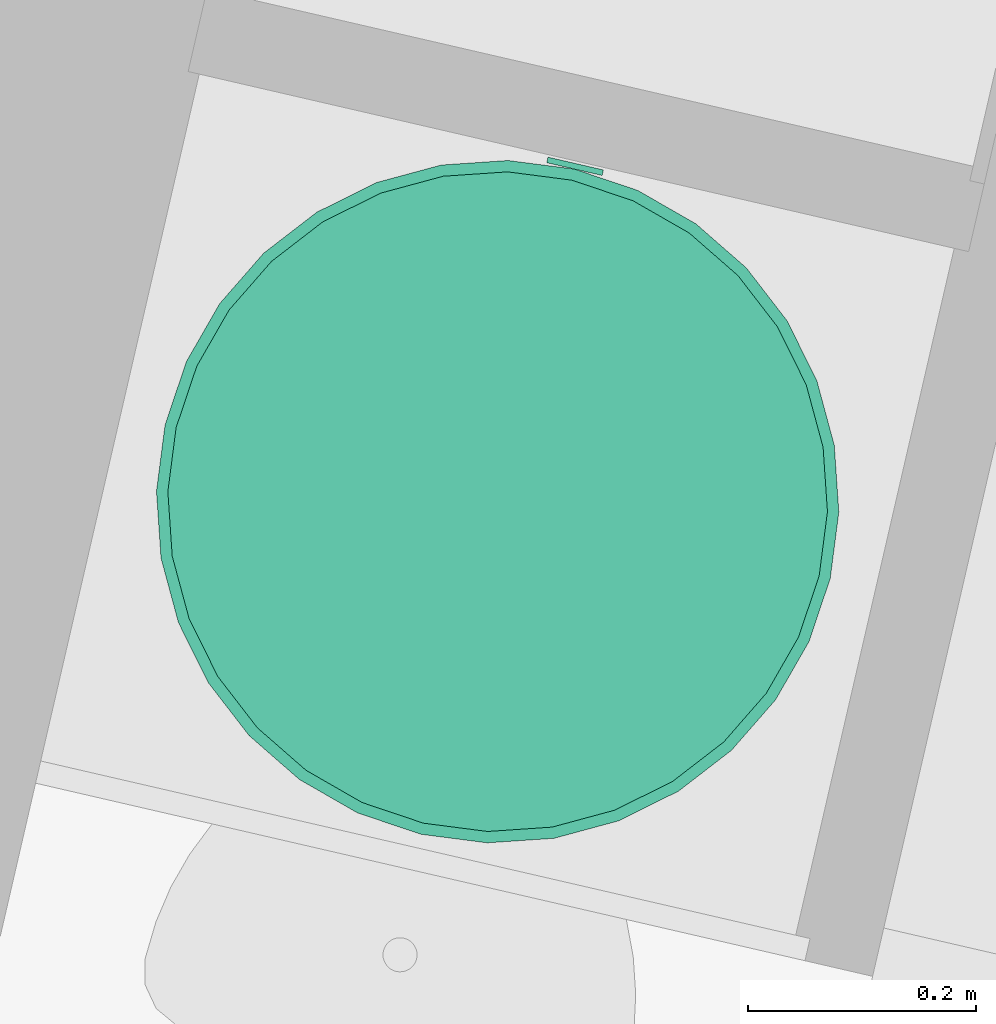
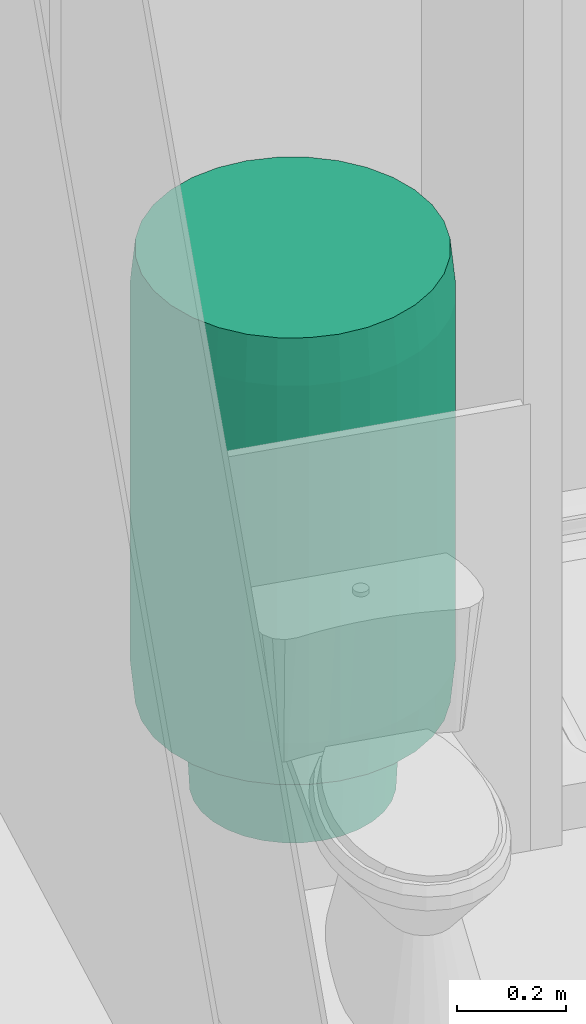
# One storey, part 73 of 91: 1 energy conversion device.
"""IFC2X3 building model written with IfcOpenShell, lengths in metres."""

from ifc_helpers import new_model, entity, si_unit, converted_unit, derived_unit, money_unit, direction, frame, origin_with_axes, place, context, subcontext, project, spatial, open_shell, faceted_brep, surface_model, source, transform, mapped, type_object, element, save


model = new_model("IFC2X3")

# Units and contexts
model_context = context("Model", 3, precision=1e-05, world=origin_with_axes(), true_north=direction((0.0, 1.0)))
body_context = subcontext(model_context, "Body", "Model", "MODEL_VIEW")
ifc_project = project(units=[si_unit("LENGTHUNIT", "METRE"), si_unit("AREAUNIT", "SQUARE_METRE"), si_unit("VOLUMEUNIT", "CUBIC_METRE"), converted_unit("PLANEANGLEUNIT", "DEGREE", entity("IfcPlaneAngleMeasure", 0.0174532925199), si_unit("PLANEANGLEUNIT", "RADIAN"), dimensions=[0, 0, 0, 0, 0, 0, 0]), si_unit("SOLIDANGLEUNIT", "STERADIAN"), money_unit("EUR"), converted_unit("TIMEUNIT", "Year", entity("IfcTimeMeasure", 31556926.0), si_unit("TIMEUNIT", "SECOND"), dimensions=[0, 0, 1, 0, 0, 0, 0]), si_unit("MASSUNIT", "GRAM", prefix="KILO"), si_unit("THERMODYNAMICTEMPERATUREUNIT", "DEGREE_CELSIUS"), si_unit("LUMINOUSINTENSITYUNIT", "LUMEN"), si_unit("ENERGYUNIT", "JOULE", prefix="MEGA"), derived_unit("THERMALCONDUCTANCEUNIT", [(si_unit("POWERUNIT", "WATT"), 1), (si_unit("LENGTHUNIT", "METRE"), -1), (si_unit("THERMODYNAMICTEMPERATUREUNIT", "KELVIN"), -1)]), derived_unit("SPECIFICHEATCAPACITYUNIT", [(si_unit("ENERGYUNIT", "JOULE"), 1), (si_unit("MASSUNIT", "GRAM", prefix="KILO"), -1), (si_unit("THERMODYNAMICTEMPERATUREUNIT", "KELVIN"), -1)]), derived_unit("MASSDENSITYUNIT", [(si_unit("MASSUNIT", "GRAM", prefix="KILO"), 1), (si_unit("VOLUMEUNIT", "CUBIC_METRE"), -1)])], contexts=[model_context])

# Site, building, storey
site_placement = place(None, origin_with_axes())
site = spatial("IfcSite", under=ifc_project, at=site_placement, Name="Site", CompositionType="ELEMENT")
building_placement = place(site_placement, origin_with_axes())
building = spatial("IfcBuilding", under=site, at=building_placement, Name="Bâtiment", CompositionType="ELEMENT")
storey_placement = place(building_placement, frame((0.0, 0.0, 5.44), z_axis=(0.0, 0.0, 1.0), x_axis=(1.0, 0.0, 0.0)))
storey = spatial("IfcBuildingStorey", under=building, at=storey_placement, Name="R+2", CompositionType="ELEMENT", Elevation=5.44)

# Energy conversion device
heat_exchanger_type = type_object("IfcHeatExchangerType", Name="Chauffe-eau électrique 23", PredefinedType="SHELLANDTUBE")
shared_shape = source(origin_with_axes(), body_context, "Body", "SurfaceModel", [
    surface_model("IfcShellBasedSurfaceModel", [(-0.245, -0.0135, 0.2), (-0.245, -0.0135, 0.18), (-0.241505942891, -0.0130399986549, 0.18), (-0.241505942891, -0.0130399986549, 0.2), (-0.248494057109, -0.0130399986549, 0.2), (-0.248494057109, -0.0130399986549, 0.18), (-0.23825, -0.0116913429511, 0.18), (-0.23825, -0.0116913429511, 0.2), (-0.25175, -0.0116913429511, 0.2), (-0.25175, -0.0116913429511, 0.18), (-0.235454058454, -0.00954594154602, 0.18), (-0.235454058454, -0.00954594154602, 0.2), (-0.254545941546, -0.00954594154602, 0.2), (-0.254545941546, -0.00954594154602, 0.18), (-0.233308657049, -0.00675, 0.18), (-0.233308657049, -0.00675, 0.2), (-0.256691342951, -0.00675, 0.2), (-0.256691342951, -0.00675, 0.18), (-0.231960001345, -0.00349405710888, 0.18), (-0.231960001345, -0.00349405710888, 0.2), (-0.258039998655, -0.00349405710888, 0.2), (-0.258039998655, -0.00349405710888, 0.18), (-0.2315, 0.0, 0.18), (-0.2315, 0.0, 0.2), (-0.2585, 0.0, 0.2), (-0.2585, 0.0, 0.18), (-0.231960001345, 0.00349405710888, 0.18), (-0.231960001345, 0.00349405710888, 0.2), (-0.258039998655, 0.00349405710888, 0.2), (-0.258039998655, 0.00349405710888, 0.18), (-0.233308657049, 0.00675, 0.18), (-0.233308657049, 0.00675, 0.2), (-0.256691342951, 0.00675, 0.2), (-0.256691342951, 0.00675, 0.18), (-0.235454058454, 0.00954594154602, 0.18), (-0.235454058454, 0.00954594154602, 0.2), (-0.254545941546, 0.00954594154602, 0.2), (-0.254545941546, 0.00954594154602, 0.18), (-0.23825, 0.0116913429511, 0.18), (-0.23825, 0.0116913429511, 0.2), (-0.25175, 0.0116913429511, 0.2), (-0.25175, 0.0116913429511, 0.18), (-0.241505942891, 0.0130399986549, 0.18), (-0.241505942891, 0.0130399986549, 0.2), (-0.248494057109, 0.0130399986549, 0.2), (-0.248494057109, 0.0130399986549, 0.18), (-0.245, 0.0135, 0.18), (-0.245, 0.0135, 0.2)], [open_shell([[[0, 1, 2, 3]], [[4, 5, 1, 0]], [[3, 2, 6, 7]], [[8, 9, 5, 4]], [[7, 6, 10, 11]], [[12, 13, 9, 8]], [[11, 10, 14, 15]], [[16, 17, 13, 12]], [[15, 14, 18, 19]], [[20, 21, 17, 16]], [[19, 18, 22, 23]], [[24, 25, 21, 20]], [[23, 22, 26, 27]], [[28, 29, 25, 24]], [[27, 26, 30, 31]], [[32, 33, 29, 28]], [[31, 30, 34, 35]], [[36, 37, 33, 32]], [[35, 34, 38, 39]], [[40, 41, 37, 36]], [[39, 38, 42, 43]], [[44, 45, 41, 40]], [[43, 42, 46, 47]], [[47, 46, 45, 44]]])]),
    surface_model("IfcShellBasedSurfaceModel", [(0.245, -0.0135, 0.2), (0.245, -0.0135, 0.18), (0.248494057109, -0.0130399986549, 0.18), (0.248494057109, -0.0130399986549, 0.2), (0.241505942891, -0.0130399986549, 0.2), (0.241505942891, -0.0130399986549, 0.18), (0.25175, -0.0116913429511, 0.18), (0.25175, -0.0116913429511, 0.2), (0.23825, -0.0116913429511, 0.2), (0.23825, -0.0116913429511, 0.18), (0.254545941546, -0.00954594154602, 0.18), (0.254545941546, -0.00954594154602, 0.2), (0.235454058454, -0.00954594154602, 0.2), (0.235454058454, -0.00954594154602, 0.18), (0.256691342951, -0.00675, 0.18), (0.256691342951, -0.00675, 0.2), (0.233308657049, -0.00675, 0.2), (0.233308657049, -0.00675, 0.18), (0.258039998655, -0.00349405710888, 0.18), (0.258039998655, -0.00349405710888, 0.2), (0.231960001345, -0.00349405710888, 0.2), (0.231960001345, -0.00349405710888, 0.18), (0.2585, 0.0, 0.18), (0.2585, 0.0, 0.2), (0.2315, 0.0, 0.2), (0.2315, 0.0, 0.18), (0.258039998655, 0.00349405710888, 0.18), (0.258039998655, 0.00349405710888, 0.2), (0.231960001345, 0.00349405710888, 0.2), (0.231960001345, 0.00349405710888, 0.18), (0.256691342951, 0.00675, 0.18), (0.256691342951, 0.00675, 0.2), (0.233308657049, 0.00675, 0.2), (0.233308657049, 0.00675, 0.18), (0.254545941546, 0.00954594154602, 0.18), (0.254545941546, 0.00954594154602, 0.2), (0.235454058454, 0.00954594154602, 0.2), (0.235454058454, 0.00954594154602, 0.18), (0.25175, 0.0116913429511, 0.18), (0.25175, 0.0116913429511, 0.2), (0.23825, 0.0116913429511, 0.2), (0.23825, 0.0116913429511, 0.18), (0.248494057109, 0.0130399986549, 0.18), (0.248494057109, 0.0130399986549, 0.2), (0.241505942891, 0.0130399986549, 0.2), (0.241505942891, 0.0130399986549, 0.18), (0.245, 0.0135, 0.18), (0.245, 0.0135, 0.2)], [open_shell([[[0, 1, 2, 3]], [[4, 5, 1, 0]], [[3, 2, 6, 7]], [[8, 9, 5, 4]], [[7, 6, 10, 11]], [[12, 13, 9, 8]], [[11, 10, 14, 15]], [[16, 17, 13, 12]], [[15, 14, 18, 19]], [[20, 21, 17, 16]], [[19, 18, 22, 23]], [[24, 25, 21, 20]], [[23, 22, 26, 27]], [[28, 29, 25, 24]], [[27, 26, 30, 31]], [[32, 33, 29, 28]], [[31, 30, 34, 35]], [[36, 37, 33, 32]], [[35, 34, 38, 39]], [[40, 41, 37, 36]], [[39, 38, 42, 43]], [[44, 45, 41, 40]], [[43, 42, 46, 47]], [[47, 46, 45, 44]]])]),
    faceted_brep([(-0.025, -0.305, 0.4), (-0.025, -0.3, 0.4), (0.025, -0.3, 0.4), (0.025, -0.305, 0.4), (-0.025, -0.305, 0.42), (-0.025, -0.3, 0.42), (0.025, -0.3, 0.42), (0.025, -0.305, 0.42)], [[[0, 1, 2, 3]], [[0, 4, 5, 1]], [[1, 5, 6, 2]], [[2, 6, 7, 3]], [[3, 7, 4, 0]], [[7, 6, 5, 4]]]),
    faceted_brep([(0.0222836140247, -0.16, 0.088519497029), (0.02, -0.16, 0.1), (0.0222836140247, -0.16, 0.111480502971), (0.0287867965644, -0.16, 0.121213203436), (0.038519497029, -0.16, 0.127716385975), (0.05, -0.16, 0.13), (0.061480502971, -0.16, 0.127716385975), (0.0712132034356, -0.16, 0.121213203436), (0.0777163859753, -0.16, 0.111480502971), (0.08, -0.16, 0.1), (0.0777163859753, -0.16, 0.088519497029), (0.0712132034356, -0.16, 0.0787867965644), (0.061480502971, -0.16, 0.0722836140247), (0.05, -0.16, 0.07), (0.038519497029, -0.16, 0.0722836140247), (0.0287867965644, -0.16, 0.0787867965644), (0.0222836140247, -0.175, 0.088519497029), (0.02, -0.175, 0.1), (0.0222836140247, -0.175, 0.111480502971), (0.0287867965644, -0.175, 0.121213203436), (0.038519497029, -0.175, 0.127716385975), (0.05, -0.175, 0.13), (0.061480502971, -0.175, 0.127716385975), (0.0712132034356, -0.175, 0.121213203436), (0.0777163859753, -0.175, 0.111480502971), (0.08, -0.175, 0.1), (0.0777163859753, -0.175, 0.088519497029), (0.0712132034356, -0.175, 0.0787867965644), (0.061480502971, -0.175, 0.0722836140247), (0.05, -0.175, 0.07), (0.038519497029, -0.175, 0.0722836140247), (0.0287867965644, -0.175, 0.0787867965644)], [[[0, 1, 2, 3, 4, 5, 6, 7, 8, 9, 10, 11, 12, 13, 14, 15]], [[0, 16, 17, 1]], [[1, 17, 18, 2]], [[2, 18, 19, 3]], [[3, 19, 20, 4]], [[4, 20, 21, 5]], [[5, 21, 22, 6]], [[6, 22, 23, 7]], [[7, 23, 24, 8]], [[8, 24, 25, 9]], [[9, 25, 26, 10]], [[10, 26, 27, 11]], [[11, 27, 28, 12]], [[12, 28, 29, 13]], [[13, 29, 30, 14]], [[14, 30, 31, 15]], [[15, 31, 16, 0]], [[16, 31, 30, 29, 28, 27, 26, 25, 24, 23, 22, 21, 20, 19, 18, 17]]]),
    faceted_brep([(-0.0777163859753, -0.16, 0.088519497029), (-0.08, -0.16, 0.1), (-0.0777163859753, -0.16, 0.111480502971), (-0.0712132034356, -0.16, 0.121213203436), (-0.061480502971, -0.16, 0.127716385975), (-0.05, -0.16, 0.13), (-0.038519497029, -0.16, 0.127716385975), (-0.0287867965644, -0.16, 0.121213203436), (-0.0222836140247, -0.16, 0.111480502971), (-0.02, -0.16, 0.1), (-0.0222836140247, -0.16, 0.088519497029), (-0.0287867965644, -0.16, 0.0787867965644), (-0.038519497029, -0.16, 0.0722836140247), (-0.05, -0.16, 0.07), (-0.061480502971, -0.16, 0.0722836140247), (-0.0712132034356, -0.16, 0.0787867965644), (-0.0777163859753, -0.175, 0.088519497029), (-0.08, -0.175, 0.1), (-0.0777163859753, -0.175, 0.111480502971), (-0.0712132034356, -0.175, 0.121213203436), (-0.061480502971, -0.175, 0.127716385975), (-0.05, -0.175, 0.13), (-0.038519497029, -0.175, 0.127716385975), (-0.0287867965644, -0.175, 0.121213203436), (-0.0222836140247, -0.175, 0.111480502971), (-0.02, -0.175, 0.1), (-0.0222836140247, -0.175, 0.088519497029), (-0.0287867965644, -0.175, 0.0787867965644), (-0.038519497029, -0.175, 0.0722836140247), (-0.05, -0.175, 0.07), (-0.061480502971, -0.175, 0.0722836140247), (-0.0712132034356, -0.175, 0.0787867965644)], [[[0, 1, 2, 3, 4, 5, 6, 7, 8, 9, 10, 11, 12, 13, 14, 15]], [[0, 16, 17, 1]], [[1, 17, 18, 2]], [[2, 18, 19, 3]], [[3, 19, 20, 4]], [[4, 20, 21, 5]], [[5, 21, 22, 6]], [[6, 22, 23, 7]], [[7, 23, 24, 8]], [[8, 24, 25, 9]], [[9, 25, 26, 10]], [[10, 26, 27, 11]], [[11, 27, 28, 12]], [[12, 28, 29, 13]], [[13, 29, 30, 14]], [[14, 30, 31, 15]], [[15, 31, 16, 0]], [[16, 31, 30, 29, 28, 27, 26, 25, 24, 23, 22, 21, 20, 19, 18, 17]]]),
    faceted_brep([(-0.186349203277, -0.0370671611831, 0.0), (-0.196157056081, -0.0390180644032, 0.2), (-0.2, 0.0, 0.2), (-0.19, 0.0, 0.0), (-0.175537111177, -0.0727098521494, 0.0), (-0.184775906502, -0.076536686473, 0.2), (-0.166293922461, -0.111114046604, 0.2), (-0.141421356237, -0.141421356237, 0.2), (-0.118783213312, -0.16, 0.2), (0.118783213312, -0.16, 0.2), (0.141421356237, -0.141421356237, 0.2), (0.166293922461, -0.111114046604, 0.2), (0.184775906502, -0.076536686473, 0.2), (0.196157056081, -0.0390180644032, 0.2), (0.2, 0.0, 0.2), (0.196157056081, 0.0390180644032, 0.2), (0.184775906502, 0.076536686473, 0.2), (0.166293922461, 0.111114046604, 0.2), (0.141421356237, 0.141421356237, 0.2), (0.111114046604, 0.166293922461, 0.2), (0.076536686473, 0.184775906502, 0.2), (0.0390180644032, 0.196157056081, 0.2), (0.0, 0.2, 0.2), (-0.0390180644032, 0.196157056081, 0.2), (-0.076536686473, 0.184775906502, 0.2), (-0.111114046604, 0.166293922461, 0.2), (-0.141421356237, 0.141421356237, 0.2), (-0.166293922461, 0.111114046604, 0.2), (-0.184775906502, 0.076536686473, 0.2), (-0.196157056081, 0.0390180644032, 0.2), (-0.186349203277, 0.0370671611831, 0.0), (-0.175537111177, 0.0727098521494, 0.0), (-0.157979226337, 0.105558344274, 0.0), (-0.134350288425, 0.134350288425, 0.0), (-0.105558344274, 0.157979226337, 0.0), (-0.0727098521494, 0.175537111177, 0.0), (-0.0370671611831, 0.186349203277, 0.0), (0.0, 0.19, 0.0), (0.0370671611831, 0.186349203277, 0.0), (0.0727098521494, 0.175537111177, 0.0), (0.105558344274, 0.157979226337, 0.0), (0.134350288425, 0.134350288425, 0.0), (0.157979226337, 0.105558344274, 0.0), (0.175537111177, 0.0727098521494, 0.0), (0.186349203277, 0.0370671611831, 0.0), (0.19, 0.0, 0.0), (0.186349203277, -0.0370671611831, 0.0), (0.175537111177, -0.0727098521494, 0.0), (0.157979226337, -0.105558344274, 0.0), (0.134350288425, -0.134350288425, 0.0), (0.105558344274, -0.157979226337, 0.0), (0.101777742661, -0.16, 0.0), (-0.101777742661, -0.16, 0.0), (-0.105558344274, -0.157979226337, 0.0), (-0.134350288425, -0.134350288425, 0.0), (-0.157979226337, -0.105558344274, 0.0), (-0.106908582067, -0.16, 0.0486072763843), (0.106908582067, -0.16, 0.0486072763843)], [[[0, 1, 2, 3]], [[4, 5, 1, 0]], [[1, 5, 6, 7, 8, 9, 10, 11, 12, 13, 14, 15, 16, 17, 18, 19, 20, 21, 22, 23, 24, 25, 26, 27, 28, 29, 2]], [[3, 2, 29, 30]], [[0, 3, 30, 31, 32, 33, 34, 35, 36, 37, 38, 39, 40, 41, 42, 43, 44, 45, 46, 47, 48, 49, 50, 51, 52, 53, 54, 55, 4]], [[55, 6, 5, 4]], [[54, 7, 6, 55]], [[53, 56, 8, 7, 54]], [[51, 57, 9, 8, 56, 52]], [[49, 10, 9, 57, 50]], [[48, 11, 10, 49]], [[47, 12, 11, 48]], [[46, 13, 12, 47]], [[45, 14, 13, 46]], [[44, 15, 14, 45]], [[43, 16, 15, 44]], [[42, 17, 16, 43]], [[41, 18, 17, 42]], [[40, 19, 18, 41]], [[39, 20, 19, 40]], [[38, 21, 20, 39]], [[37, 22, 21, 38]], [[36, 23, 22, 37]], [[35, 24, 23, 36]], [[34, 25, 24, 35]], [[33, 26, 25, 34]], [[32, 27, 26, 33]], [[31, 28, 27, 32]], [[30, 29, 28, 31]], [[50, 57, 51]], [[52, 56, 53]]]),
    faceted_brep([(-0.284427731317, -0.0565761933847, 0.2), (-0.294235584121, -0.0585270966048, 0.3), (-0.3, 0.0, 0.3), (-0.29, 0.0, 0.2), (-0.267925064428, -0.110978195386, 0.2), (-0.277163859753, -0.11480502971, 0.3), (-0.249440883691, -0.166671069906, 0.3), (-0.212132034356, -0.212132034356, 0.3), (-0.166671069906, -0.249440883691, 0.3), (-0.11480502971, -0.277163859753, 0.3), (-0.0585270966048, -0.294235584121, 0.3), (0.0, -0.3, 0.3), (0.0585270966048, -0.294235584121, 0.3), (0.11480502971, -0.277163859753, 0.3), (0.166671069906, -0.249440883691, 0.3), (0.212132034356, -0.212132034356, 0.3), (0.249440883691, -0.166671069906, 0.3), (0.277163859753, -0.11480502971, 0.3), (0.294235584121, -0.0585270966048, 0.3), (0.3, 0.0, 0.3), (0.294235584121, 0.0585270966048, 0.3), (0.277163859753, 0.11480502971, 0.3), (0.249440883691, 0.166671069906, 0.3), (0.212132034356, 0.212132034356, 0.3), (0.166671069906, 0.249440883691, 0.3), (0.11480502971, 0.277163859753, 0.3), (0.0585270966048, 0.294235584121, 0.3), (0.0, 0.3, 0.3), (-0.0585270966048, 0.294235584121, 0.3), (-0.11480502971, 0.277163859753, 0.3), (-0.166671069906, 0.249440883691, 0.3), (-0.212132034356, 0.212132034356, 0.3), (-0.249440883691, 0.166671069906, 0.3), (-0.277163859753, 0.11480502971, 0.3), (-0.294235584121, 0.0585270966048, 0.3), (-0.284427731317, 0.0565761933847, 0.2), (-0.267925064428, 0.110978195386, 0.2), (-0.241126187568, 0.161115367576, 0.2), (-0.205060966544, 0.205060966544, 0.2), (-0.161115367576, 0.241126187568, 0.2), (-0.110978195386, 0.267925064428, 0.2), (-0.0565761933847, 0.284427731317, 0.2), (0.0, 0.29, 0.2), (0.0565761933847, 0.284427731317, 0.2), (0.110978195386, 0.267925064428, 0.2), (0.161115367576, 0.241126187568, 0.2), (0.205060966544, 0.205060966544, 0.2), (0.241126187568, 0.161115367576, 0.2), (0.267925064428, 0.110978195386, 0.2), (0.284427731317, 0.0565761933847, 0.2), (0.29, 0.0, 0.2), (0.284427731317, -0.0565761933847, 0.2), (0.267925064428, -0.110978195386, 0.2), (0.241126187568, -0.161115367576, 0.2), (0.205060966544, -0.205060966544, 0.2), (0.161115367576, -0.241126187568, 0.2), (0.110978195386, -0.267925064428, 0.2), (0.0565761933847, -0.284427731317, 0.2), (0.0, -0.29, 0.2), (-0.0565761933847, -0.284427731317, 0.2), (-0.110978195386, -0.267925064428, 0.2), (-0.161115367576, -0.241126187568, 0.2), (-0.205060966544, -0.205060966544, 0.2), (-0.241126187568, -0.161115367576, 0.2)], [[[0, 1, 2, 3]], [[4, 5, 1, 0]], [[1, 5, 6, 7, 8, 9, 10, 11, 12, 13, 14, 15, 16, 17, 18, 19, 20, 21, 22, 23, 24, 25, 26, 27, 28, 29, 30, 31, 32, 33, 34, 2]], [[3, 2, 34, 35]], [[0, 3, 35, 36, 37, 38, 39, 40, 41, 42, 43, 44, 45, 46, 47, 48, 49, 50, 51, 52, 53, 54, 55, 56, 57, 58, 59, 60, 61, 62, 63, 4]], [[63, 6, 5, 4]], [[62, 7, 6, 63]], [[61, 8, 7, 62]], [[60, 9, 8, 61]], [[59, 10, 9, 60]], [[58, 11, 10, 59]], [[57, 12, 11, 58]], [[56, 13, 12, 57]], [[55, 14, 13, 56]], [[54, 15, 14, 55]], [[53, 16, 15, 54]], [[52, 17, 16, 53]], [[51, 18, 17, 52]], [[50, 19, 18, 51]], [[49, 20, 19, 50]], [[48, 21, 20, 49]], [[47, 22, 21, 48]], [[46, 23, 22, 47]], [[45, 24, 23, 46]], [[44, 25, 24, 45]], [[43, 26, 25, 44]], [[42, 27, 26, 43]], [[41, 28, 27, 42]], [[40, 29, 28, 41]], [[39, 30, 29, 40]], [[38, 31, 30, 39]], [[37, 32, 31, 38]], [[36, 33, 32, 37]], [[35, 34, 33, 36]]]),
    faceted_brep([(-0.294235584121, -0.0585270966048, 0.3), (-0.3, 0.0, 0.3), (-0.294235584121, 0.0585270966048, 0.3), (-0.277163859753, 0.11480502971, 0.3), (-0.249440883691, 0.166671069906, 0.3), (-0.212132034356, 0.212132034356, 0.3), (-0.166671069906, 0.249440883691, 0.3), (-0.11480502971, 0.277163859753, 0.3), (-0.0585270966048, 0.294235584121, 0.3), (0.0, 0.3, 0.3), (0.0585270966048, 0.294235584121, 0.3), (0.11480502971, 0.277163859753, 0.3), (0.166671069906, 0.249440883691, 0.3), (0.212132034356, 0.212132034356, 0.3), (0.249440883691, 0.166671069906, 0.3), (0.277163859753, 0.11480502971, 0.3), (0.294235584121, 0.0585270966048, 0.3), (0.3, 0.0, 0.3), (0.294235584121, -0.0585270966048, 0.3), (0.277163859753, -0.11480502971, 0.3), (0.249440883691, -0.166671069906, 0.3), (0.212132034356, -0.212132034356, 0.3), (0.166671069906, -0.249440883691, 0.3), (0.11480502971, -0.277163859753, 0.3), (0.0585270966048, -0.294235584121, 0.3), (0.0, -0.3, 0.3), (-0.0585270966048, -0.294235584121, 0.3), (-0.11480502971, -0.277163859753, 0.3), (-0.166671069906, -0.249440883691, 0.3), (-0.212132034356, -0.212132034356, 0.3), (-0.249440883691, -0.166671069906, 0.3), (-0.277163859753, -0.11480502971, 0.3), (-0.294235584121, -0.0585270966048, 1.1), (-0.3, 0.0, 1.1), (-0.294235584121, 0.0585270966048, 1.1), (-0.277163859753, 0.11480502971, 1.1), (-0.249440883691, 0.166671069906, 1.1), (-0.212132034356, 0.212132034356, 1.1), (-0.166671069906, 0.249440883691, 1.1), (-0.11480502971, 0.277163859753, 1.1), (-0.0585270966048, 0.294235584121, 1.1), (0.0, 0.3, 1.1), (0.0585270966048, 0.294235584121, 1.1), (0.11480502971, 0.277163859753, 1.1), (0.166671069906, 0.249440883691, 1.1), (0.212132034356, 0.212132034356, 1.1), (0.249440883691, 0.166671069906, 1.1), (0.277163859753, 0.11480502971, 1.1), (0.294235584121, 0.0585270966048, 1.1), (0.3, 0.0, 1.1), (0.294235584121, -0.0585270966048, 1.1), (0.277163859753, -0.11480502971, 1.1), (0.249440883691, -0.166671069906, 1.1), (0.212132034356, -0.212132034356, 1.1), (0.166671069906, -0.249440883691, 1.1), (0.11480502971, -0.277163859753, 1.1), (0.0585270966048, -0.294235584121, 1.1), (0.0, -0.3, 1.1), (-0.0585270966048, -0.294235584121, 1.1), (-0.11480502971, -0.277163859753, 1.1), (-0.166671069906, -0.249440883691, 1.1), (-0.212132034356, -0.212132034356, 1.1), (-0.249440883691, -0.166671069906, 1.1), (-0.277163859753, -0.11480502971, 1.1)], [[[0, 1, 2, 3, 4, 5, 6, 7, 8, 9, 10, 11, 12, 13, 14, 15, 16, 17, 18, 19, 20, 21, 22, 23, 24, 25, 26, 27, 28, 29, 30, 31]], [[0, 32, 33, 1]], [[1, 33, 34, 2]], [[2, 34, 35, 3]], [[3, 35, 36, 4]], [[4, 36, 37, 5]], [[5, 37, 38, 6]], [[6, 38, 39, 7]], [[7, 39, 40, 8]], [[8, 40, 41, 9]], [[9, 41, 42, 10]], [[10, 42, 43, 11]], [[11, 43, 44, 12]], [[12, 44, 45, 13]], [[13, 45, 46, 14]], [[14, 46, 47, 15]], [[15, 47, 48, 16]], [[16, 48, 49, 17]], [[17, 49, 50, 18]], [[18, 50, 51, 19]], [[19, 51, 52, 20]], [[20, 52, 53, 21]], [[21, 53, 54, 22]], [[22, 54, 55, 23]], [[23, 55, 56, 24]], [[24, 56, 57, 25]], [[25, 57, 58, 26]], [[26, 58, 59, 27]], [[27, 59, 60, 28]], [[28, 60, 61, 29]], [[29, 61, 62, 30]], [[30, 62, 63, 31]], [[31, 63, 32, 0]], [[32, 63, 62, 61, 60, 59, 58, 57, 56, 55, 54, 53, 52, 51, 50, 49, 48, 47, 46, 45, 44, 43, 42, 41, 40, 39, 38, 37, 36, 35, 34, 33]]]),
    faceted_brep([(-0.294235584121, -0.0585270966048, 1.1), (-0.284427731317, -0.0565761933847, 1.2), (-0.29, 0.0, 1.2), (-0.3, 0.0, 1.1), (-0.277163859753, -0.11480502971, 1.1), (-0.267925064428, -0.110978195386, 1.2), (-0.241126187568, -0.161115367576, 1.2), (-0.205060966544, -0.205060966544, 1.2), (-0.161115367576, -0.241126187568, 1.2), (-0.110978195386, -0.267925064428, 1.2), (-0.0565761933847, -0.284427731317, 1.2), (0.0, -0.29, 1.2), (0.0565761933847, -0.284427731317, 1.2), (0.110978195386, -0.267925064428, 1.2), (0.161115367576, -0.241126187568, 1.2), (0.205060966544, -0.205060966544, 1.2), (0.241126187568, -0.161115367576, 1.2), (0.267925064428, -0.110978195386, 1.2), (0.284427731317, -0.0565761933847, 1.2), (0.29, 0.0, 1.2), (0.284427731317, 0.0565761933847, 1.2), (0.267925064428, 0.110978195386, 1.2), (0.241126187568, 0.161115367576, 1.2), (0.205060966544, 0.205060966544, 1.2), (0.161115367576, 0.241126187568, 1.2), (0.110978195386, 0.267925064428, 1.2), (0.0565761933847, 0.284427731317, 1.2), (0.0, 0.29, 1.2), (-0.0565761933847, 0.284427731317, 1.2), (-0.110978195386, 0.267925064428, 1.2), (-0.161115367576, 0.241126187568, 1.2), (-0.205060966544, 0.205060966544, 1.2), (-0.241126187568, 0.161115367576, 1.2), (-0.267925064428, 0.110978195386, 1.2), (-0.284427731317, 0.0565761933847, 1.2), (-0.294235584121, 0.0585270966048, 1.1), (-0.277163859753, 0.11480502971, 1.1), (-0.249440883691, 0.166671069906, 1.1), (-0.212132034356, 0.212132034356, 1.1), (-0.166671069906, 0.249440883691, 1.1), (-0.11480502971, 0.277163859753, 1.1), (-0.0585270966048, 0.294235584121, 1.1), (0.0, 0.3, 1.1), (0.0585270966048, 0.294235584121, 1.1), (0.11480502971, 0.277163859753, 1.1), (0.166671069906, 0.249440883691, 1.1), (0.212132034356, 0.212132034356, 1.1), (0.249440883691, 0.166671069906, 1.1), (0.277163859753, 0.11480502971, 1.1), (0.294235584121, 0.0585270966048, 1.1), (0.3, 0.0, 1.1), (0.294235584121, -0.0585270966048, 1.1), (0.277163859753, -0.11480502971, 1.1), (0.249440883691, -0.166671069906, 1.1), (0.212132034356, -0.212132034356, 1.1), (0.166671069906, -0.249440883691, 1.1), (0.11480502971, -0.277163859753, 1.1), (0.0585270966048, -0.294235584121, 1.1), (0.0, -0.3, 1.1), (-0.0585270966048, -0.294235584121, 1.1), (-0.11480502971, -0.277163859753, 1.1), (-0.166671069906, -0.249440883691, 1.1), (-0.212132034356, -0.212132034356, 1.1), (-0.249440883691, -0.166671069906, 1.1)], [[[0, 1, 2, 3]], [[4, 5, 1, 0]], [[1, 5, 6, 7, 8, 9, 10, 11, 12, 13, 14, 15, 16, 17, 18, 19, 20, 21, 22, 23, 24, 25, 26, 27, 28, 29, 30, 31, 32, 33, 34, 2]], [[3, 2, 34, 35]], [[0, 3, 35, 36, 37, 38, 39, 40, 41, 42, 43, 44, 45, 46, 47, 48, 49, 50, 51, 52, 53, 54, 55, 56, 57, 58, 59, 60, 61, 62, 63, 4]], [[63, 6, 5, 4]], [[62, 7, 6, 63]], [[61, 8, 7, 62]], [[60, 9, 8, 61]], [[59, 10, 9, 60]], [[58, 11, 10, 59]], [[57, 12, 11, 58]], [[56, 13, 12, 57]], [[55, 14, 13, 56]], [[54, 15, 14, 55]], [[53, 16, 15, 54]], [[52, 17, 16, 53]], [[51, 18, 17, 52]], [[50, 19, 18, 51]], [[49, 20, 19, 50]], [[48, 21, 20, 49]], [[47, 22, 21, 48]], [[46, 23, 22, 47]], [[45, 24, 23, 46]], [[44, 25, 24, 45]], [[43, 26, 25, 44]], [[42, 27, 26, 43]], [[41, 28, 27, 42]], [[40, 29, 28, 41]], [[39, 30, 29, 40]], [[38, 31, 30, 39]], [[37, 32, 31, 38]], [[36, 33, 32, 37]], [[35, 34, 33, 36]]]),
])
energy_conversion_device_placement = place(storey_placement, frame((-11.1628814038, -9.73811715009, 0.0), z_axis=(0.0, 0.0, 1.0), x_axis=(-0.97438734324, 0.224876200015, 0.0)))
element("IfcEnergyConversionDevice", 1, at=energy_conversion_device_placement, inside=storey, type_object=heat_exchanger_type, Name="MOB-002", context=body_context, shape_type="MappedRepresentation", body=[
    mapped(shared_shape, transform((0.0, 0.0, 0.0))),
])

save(model, "model.ifc")
